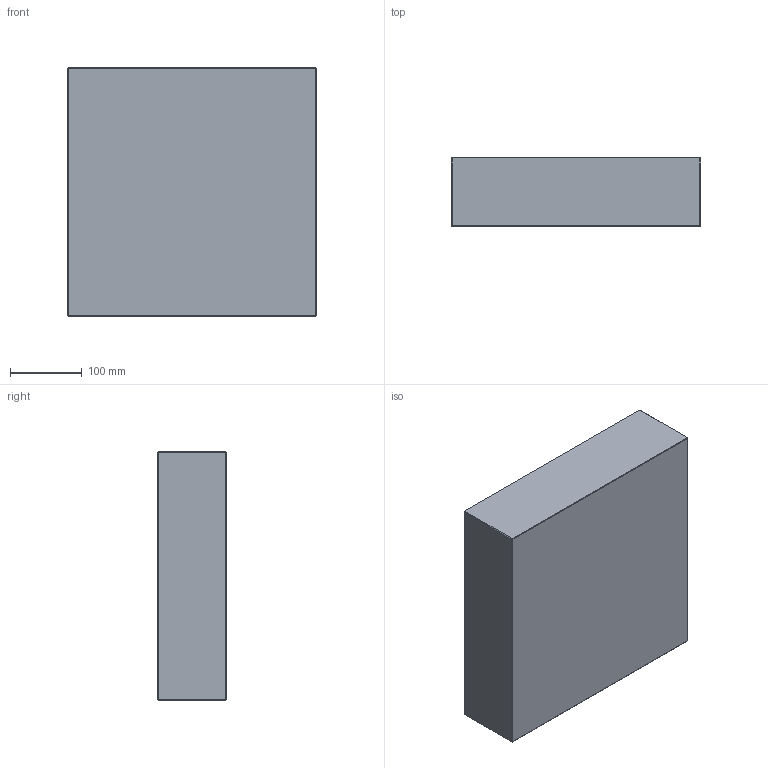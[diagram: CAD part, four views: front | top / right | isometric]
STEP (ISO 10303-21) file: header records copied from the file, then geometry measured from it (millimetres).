
FILE_DESCRIPTION (( 'STEP AP214' ), '1' );
FILE_NAME ('PC-P-346x346x96.STEP', '2020-04-01T10:02:48', ( 'August' ), ( '' ), 'SwSTEP 2.0', 'SolidWorks 2018', '' );
FILE_SCHEMA (( 'AUTOMOTIVE_DESIGN' ));
Length unit declared in the file: millimetre
Products named in the file (1): PC-P-346x346x96
Bounding box: 346 x 96 x 346 mm (x, y, z)
Volume: 11491165.3 mm3; surface area: 370446.6 mm2
Topology: 1 solids, 1 shells, 26 faces, 48 edges, 24 vertices
Faces by surface type: plane 26
Entity records: 634 total; most frequent: DIRECTION 102, CARTESIAN_POINT 99, ORIENTED_EDGE 96, VECTOR 48, LINE 48, EDGE_CURVE 48, AXIS2_PLACEMENT_3D 27, PLANE 26
